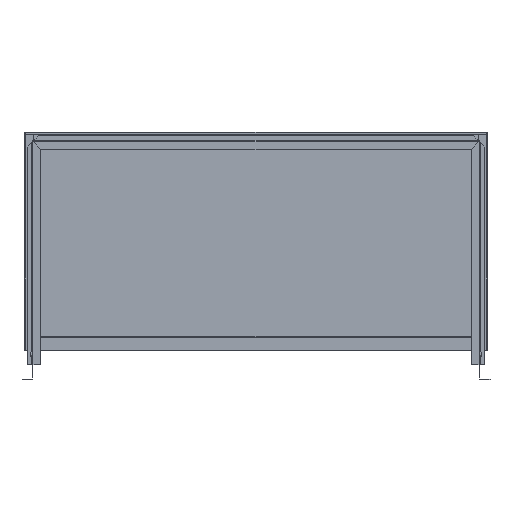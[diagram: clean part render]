
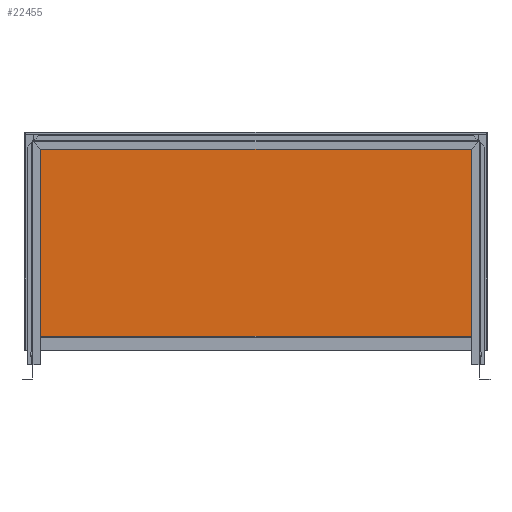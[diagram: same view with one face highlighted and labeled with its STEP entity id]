
A CAD part, front view. The second image highlights one B-rep face of the part: STEP entity #22455.
In plain terms, the highlighted planar face has unit normal (0, -1, 0).
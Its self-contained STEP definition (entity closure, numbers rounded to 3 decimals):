
#16622=CARTESIAN_POINT('',(647.271,0.8,647.2));
#16623=VERTEX_POINT('',#16622);
#16630=CARTESIAN_POINT('',(625.,0.8,624.929));
#16631=VERTEX_POINT('',#16630);
#16632=CARTESIAN_POINT('',(647.271,0.8,647.2));
#16633=DIRECTION('',(-0.707,0.,-0.707));
#16634=VECTOR('',#16633,31.496);
#16635=LINE('',#16632,#16634);
#16636=EDGE_CURVE('',#16623,#16631,#16635,.T.);
#16687=CARTESIAN_POINT('',(625.,0.8,81.8));
#16688=VERTEX_POINT('',#16687);
#16821=CARTESIAN_POINT('',(625.,0.8,81.8));
#16822=DIRECTION('',(0.,0.,1.));
#16823=VECTOR('',#16822,543.129);
#16824=LINE('',#16821,#16823);
#16825=EDGE_CURVE('',#16688,#16631,#16824,.T.);
#17457=CARTESIAN_POINT('',(624.929,0.8,625.));
#17458=VERTEX_POINT('',#17457);
#17465=CARTESIAN_POINT('',(647.129,0.8,647.2));
#17466=VERTEX_POINT('',#17465);
#17467=CARTESIAN_POINT('',(624.929,0.8,625.));
#17468=DIRECTION('',(0.707,-0.,0.707));
#17469=VECTOR('',#17468,31.396);
#17470=LINE('',#17467,#17469);
#17471=EDGE_CURVE('',#17458,#17466,#17470,.T.);
#17521=CARTESIAN_POINT('',(-647.129,0.8,647.2));
#17522=VERTEX_POINT('',#17521);
#19815=CARTESIAN_POINT('',(-624.929,0.8,625.));
#19816=VERTEX_POINT('',#19815);
#19823=CARTESIAN_POINT('',(624.929,0.8,625.));
#19824=DIRECTION('',(-1.,0.,0.));
#19825=VECTOR('',#19824,1249.859);
#19826=LINE('',#19823,#19825);
#19827=EDGE_CURVE('',#17458,#19816,#19826,.T.);
#19858=CARTESIAN_POINT('',(-647.129,0.8,647.2));
#19859=DIRECTION('',(0.707,0.,-0.707));
#19860=VECTOR('',#19859,31.396);
#19861=LINE('',#19858,#19860);
#19862=EDGE_CURVE('',#17522,#19816,#19861,.T.);
#22203=CARTESIAN_POINT('',(-625.,0.8,81.8));
#22204=VERTEX_POINT('',#22203);
#22221=CARTESIAN_POINT('',(-647.271,0.8,647.2));
#22222=VERTEX_POINT('',#22221);
#22316=CARTESIAN_POINT('',(-625.,0.8,624.929));
#22317=VERTEX_POINT('',#22316);
#22324=CARTESIAN_POINT('',(-625.,0.8,624.929));
#22325=DIRECTION('',(-0.707,-0.,0.707));
#22326=VECTOR('',#22325,31.496);
#22327=LINE('',#22324,#22326);
#22328=EDGE_CURVE('',#22317,#22222,#22327,.T.);
#22384=CARTESIAN_POINT('',(-625.,0.8,624.929));
#22385=DIRECTION('',(-0.,0.,-1.));
#22386=VECTOR('',#22385,543.129);
#22387=LINE('',#22384,#22386);
#22388=EDGE_CURVE('',#22317,#22204,#22387,.T.);
#22423=CARTESIAN_POINT('',(0.,0.8,0.));
#22424=DIRECTION('',(0.,1.,0.));
#22425=DIRECTION('',(-1.,0.,0.));
#22426=AXIS2_PLACEMENT_3D('',#22423,#22424,#22425);
#22427=PLANE('',#22426);
#22428=CARTESIAN_POINT('',(625.,0.8,81.8));
#22429=DIRECTION('',(-1.,0.,0.));
#22430=VECTOR('',#22429,1250.);
#22431=LINE('',#22428,#22430);
#22432=EDGE_CURVE('',#16688,#22204,#22431,.T.);
#22433=ORIENTED_EDGE('',*,*,#22432,.F.);
#22434=ORIENTED_EDGE('',*,*,#16825,.T.);
#22435=ORIENTED_EDGE('',*,*,#16636,.F.);
#22436=CARTESIAN_POINT('',(647.129,0.8,647.2));
#22437=DIRECTION('',(1.,0.,-0.));
#22438=VECTOR('',#22437,0.141);
#22439=LINE('',#22436,#22438);
#22440=EDGE_CURVE('',#17466,#16623,#22439,.T.);
#22441=ORIENTED_EDGE('',*,*,#22440,.F.);
#22442=ORIENTED_EDGE('',*,*,#17471,.F.);
#22443=ORIENTED_EDGE('',*,*,#19827,.T.);
#22444=ORIENTED_EDGE('',*,*,#19862,.F.);
#22445=CARTESIAN_POINT('',(-647.271,0.8,647.2));
#22446=DIRECTION('',(1.,0.,-0.));
#22447=VECTOR('',#22446,0.141);
#22448=LINE('',#22445,#22447);
#22449=EDGE_CURVE('',#22222,#17522,#22448,.T.);
#22450=ORIENTED_EDGE('',*,*,#22449,.F.);
#22451=ORIENTED_EDGE('',*,*,#22328,.F.);
#22452=ORIENTED_EDGE('',*,*,#22388,.T.);
#22453=EDGE_LOOP('',(#22433,#22434,#22435,#22441,#22442,#22443,#22444,#22450,#22451,#22452));
#22454=FACE_BOUND('',#22453,.T.);
#22455=ADVANCED_FACE('',(#22454),#22427,.F.);
